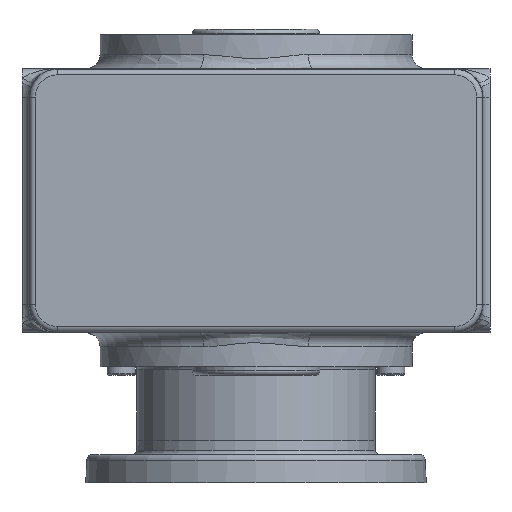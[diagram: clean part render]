
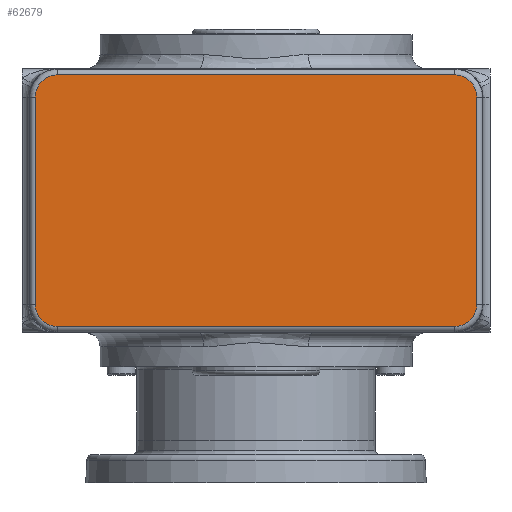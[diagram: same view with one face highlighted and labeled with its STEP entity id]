
A CAD part, front view. The second image highlights one B-rep face of the part: STEP entity #62679.
In plain terms, the highlighted planar face has unit normal (0, -1, 0).
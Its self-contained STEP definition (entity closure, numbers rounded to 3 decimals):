
#7500 = CARTESIAN_POINT ( 'NONE',  ( 77.86, -74.5, 83. ) ) ;
#7501 = CARTESIAN_POINT ( 'NONE',  ( 77.86, -74.5, 10. ) ) ;
#7502 = DIRECTION ( 'NONE',  ( 0., 0., 1. ) ) ;
#7503 = VECTOR ( 'NONE', #7502, 1000. ) ;
#7504 = CARTESIAN_POINT ( 'NONE',  ( 77.86, -74.5, 83. ) ) ;
#7505 = LINE ( 'NONE', #7504, #7503 ) ;
#7507 = DIRECTION ( 'NONE',  ( 0., 0., -1. ) ) ;
#7508 = DIRECTION ( 'NONE',  ( 0., -1., 0. ) ) ;
#7509 = CARTESIAN_POINT ( 'NONE',  ( 70., -74.5, 10. ) ) ;
#7510 = AXIS2_PLACEMENT_3D ( 'NONE', #7509, #7508, #7507 ) ;
#7511 = PLANE ( 'NONE',  #7510 ) ;
#7512 = FACE_OUTER_BOUND ( 'NONE', #62693, .T. ) ;
#7559 = CARTESIAN_POINT ( 'NONE',  ( 70., -74.5, 90.86 ) ) ;
#7570 = DIRECTION ( 'NONE',  ( 0., 0., -1. ) ) ;
#7571 = DIRECTION ( 'NONE',  ( 0., -1., 0. ) ) ;
#7572 = CARTESIAN_POINT ( 'NONE',  ( 70., -74.5, 83. ) ) ;
#7573 = AXIS2_PLACEMENT_3D ( 'NONE', #7572, #7571, #7570 ) ;
#7574 = CIRCLE ( 'NONE', #7573, 7.86 ) ;
#16893 = ORIENTED_EDGE ( 'NONE', *, *, #17222, .T. ) ;
#17008 = ORIENTED_EDGE ( 'NONE', *, *, #17148, .T. ) ;
#17146 = VERTEX_POINT ( 'NONE', #41777 ) ;
#17148 = EDGE_CURVE ( 'NONE', #62715, #17146, #41776, .T. ) ;
#17206 = EDGE_CURVE ( 'NONE', #17210, #17373, #42198, .T. ) ;
#17208 = EDGE_CURVE ( 'NONE', #17228, #17210, #42194, .T. ) ;
#17210 = VERTEX_POINT ( 'NONE', #42189 ) ;
#17212 = ORIENTED_EDGE ( 'NONE', *, *, #17214, .T. ) ;
#17214 = EDGE_CURVE ( 'NONE', #17373, #62687, #42187, .T. ) ;
#17220 = ORIENTED_EDGE ( 'NONE', *, *, #17208, .T. ) ;
#17222 = EDGE_CURVE ( 'NONE', #17146, #17224, #41783, .T. ) ;
#17224 = VERTEX_POINT ( 'NONE', #41763 ) ;
#17226 = ORIENTED_EDGE ( 'NONE', *, *, #17371, .T. ) ;
#17228 = VERTEX_POINT ( 'NONE', #41762 ) ;
#17371 = EDGE_CURVE ( 'NONE', #17224, #17228, #49810, .T. ) ;
#17373 = VERTEX_POINT ( 'NONE', #49792 ) ;
#17375 = ORIENTED_EDGE ( 'NONE', *, *, #17206, .T. ) ;
#41762 = CARTESIAN_POINT ( 'NONE',  ( -77.86, -74.5, 10. ) ) ;
#41763 = CARTESIAN_POINT ( 'NONE',  ( -77.86, -74.5, 83. ) ) ;
#41764 = DIRECTION ( 'NONE',  ( 0., 0., -1. ) ) ;
#41765 = DIRECTION ( 'NONE',  ( 0., -1., 0. ) ) ;
#41766 = CARTESIAN_POINT ( 'NONE',  ( -70., -74.5, 83. ) ) ;
#41773 = DIRECTION ( 'NONE',  ( -1., 0., 0. ) ) ;
#41774 = VECTOR ( 'NONE', #41773, 1000. ) ;
#41775 = CARTESIAN_POINT ( 'NONE',  ( -70., -74.5, 90.86 ) ) ;
#41776 = LINE ( 'NONE', #41775, #41774 ) ;
#41777 = CARTESIAN_POINT ( 'NONE',  ( -70., -74.5, 90.86 ) ) ;
#41782 = AXIS2_PLACEMENT_3D ( 'NONE', #41766, #41765, #41764 ) ;
#41783 = CIRCLE ( 'NONE', #41782, 7.86 ) ;
#42183 = DIRECTION ( 'NONE',  ( 0., 0., -1. ) ) ;
#42184 = DIRECTION ( 'NONE',  ( 0., -1., 0. ) ) ;
#42185 = CARTESIAN_POINT ( 'NONE',  ( 70., -74.5, 10. ) ) ;
#42186 = AXIS2_PLACEMENT_3D ( 'NONE', #42185, #42184, #42183 ) ;
#42187 = CIRCLE ( 'NONE', #42186, 7.86 ) ;
#42189 = CARTESIAN_POINT ( 'NONE',  ( -70., -74.5, 2.14 ) ) ;
#42190 = DIRECTION ( 'NONE',  ( 0., 0., -1. ) ) ;
#42191 = DIRECTION ( 'NONE',  ( 0., -1., 0. ) ) ;
#42192 = CARTESIAN_POINT ( 'NONE',  ( -70., -74.5, 10. ) ) ;
#42193 = AXIS2_PLACEMENT_3D ( 'NONE', #42192, #42191, #42190 ) ;
#42194 = CIRCLE ( 'NONE', #42193, 7.86 ) ;
#42195 = DIRECTION ( 'NONE',  ( 1., 0., 0. ) ) ;
#42196 = VECTOR ( 'NONE', #42195, 1000. ) ;
#42197 = CARTESIAN_POINT ( 'NONE',  ( 70., -74.5, 2.14 ) ) ;
#42198 = LINE ( 'NONE', #42197, #42196 ) ;
#49792 = CARTESIAN_POINT ( 'NONE',  ( 70., -74.5, 2.14 ) ) ;
#49793 = DIRECTION ( 'NONE',  ( 0., 0., -1. ) ) ;
#49794 = VECTOR ( 'NONE', #49793, 1000. ) ;
#49797 = CARTESIAN_POINT ( 'NONE',  ( -77.86, -74.5, 10. ) ) ;
#49810 = LINE ( 'NONE', #49797, #49794 ) ;
#62679 = ADVANCED_FACE ( 'NONE', ( #7512 ), #7511, .T. ) ;
#62681 = EDGE_CURVE ( 'NONE', #62687, #62688, #7505, .T. ) ;
#62683 = ORIENTED_EDGE ( 'NONE', *, *, #62690, .T. ) ;
#62685 = ORIENTED_EDGE ( 'NONE', *, *, #62681, .T. ) ;
#62687 = VERTEX_POINT ( 'NONE', #7501 ) ;
#62688 = VERTEX_POINT ( 'NONE', #7500 ) ;
#62690 = EDGE_CURVE ( 'NONE', #62688, #62715, #7574, .T. ) ;
#62693 = EDGE_LOOP ( 'NONE', ( #62685, #62683, #17008, #16893, #17226, #17220, #17375, #17212 ) ) ;
#62715 = VERTEX_POINT ( 'NONE', #7559 ) ;
